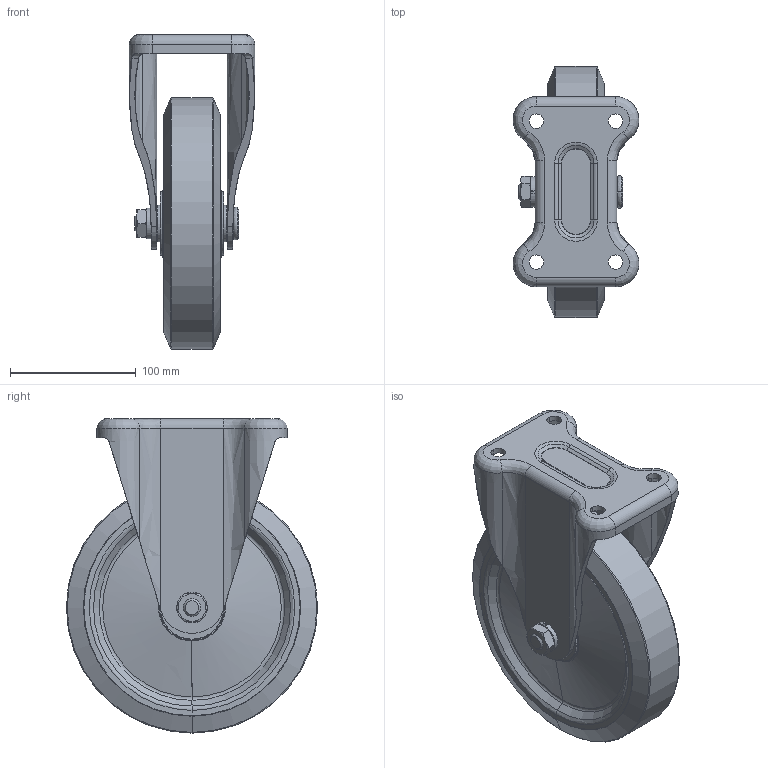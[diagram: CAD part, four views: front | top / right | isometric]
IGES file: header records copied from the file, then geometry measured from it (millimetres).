
Global section: file name: No Iges File Name specified; native system: AutoDesk Inventor R11.0; preprocessor: AutoDesk Inventor Iges Exporter R11.0; author: No Author specified; organization: No Organization specified; date: 20130719.172423; units: millimetre
Bounding box: 100 x 199.62 x 249.81 mm (x, y, z)
Surface area: 320701.3 mm2 (no closed solid volume)
Topology: 0 solids, 0 shells, 322 faces, 1666 edges, 1669 vertices
Faces by surface type: revolution 261, plane 61
